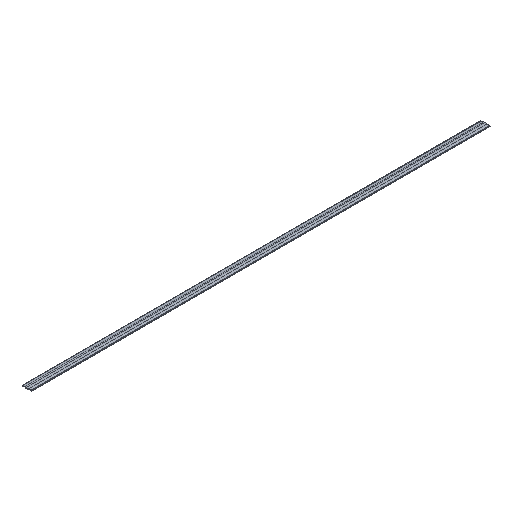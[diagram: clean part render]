
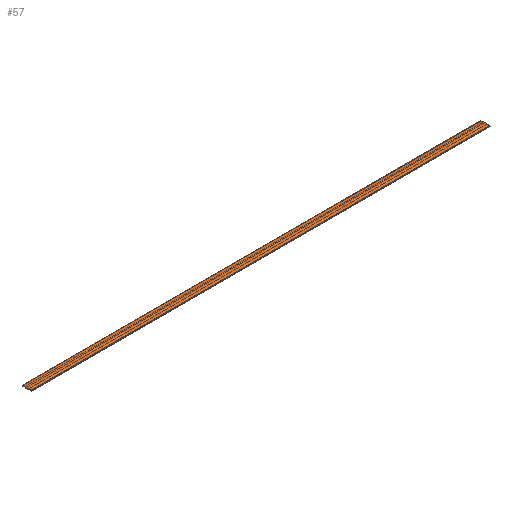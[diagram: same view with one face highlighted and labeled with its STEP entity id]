
A CAD part, isometric view. The second image highlights one B-rep face of the part: STEP entity #57.
In plain terms, the highlighted cylindrical face has radius 90 mm (diameter 180 mm), a partial arc.
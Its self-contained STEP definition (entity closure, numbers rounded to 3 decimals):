
#57 = ADVANCED_FACE( '', ( #131 ), #132, .T. );
#131 = FACE_OUTER_BOUND( '', #219, .T. );
#132 = CYLINDRICAL_SURFACE( '', #220, 90. );
#219 = EDGE_LOOP( '', ( #316, #317, #318, #319 ) );
#220 = AXIS2_PLACEMENT_3D( '', #320, #321, #322 );
#316 = ORIENTED_EDGE( '', *, *, #565, .F. );
#317 = ORIENTED_EDGE( '', *, *, #566, .F. );
#318 = ORIENTED_EDGE( '', *, *, #567, .T. );
#319 = ORIENTED_EDGE( '', *, *, #568, .T. );
#320 = CARTESIAN_POINT( '', ( 728.8, 0., -84.3 ) );
#321 = DIRECTION( '', ( 1., 0., 0. ) );
#322 = DIRECTION( '', ( 0., 0., 1. ) );
#565 = EDGE_CURVE( '', #679, #680, #681, .T. );
#566 = EDGE_CURVE( '', #682, #679, #683, .T. );
#567 = EDGE_CURVE( '', #682, #684, #685, .T. );
#568 = EDGE_CURVE( '', #684, #680, #686, .T. );
#679 = VERTEX_POINT( '', #843 );
#680 = VERTEX_POINT( '', #844 );
#681 = CIRCLE( '', #845, 90. );
#682 = VERTEX_POINT( '', #846 );
#683 = LINE( '', #847, #848 );
#684 = VERTEX_POINT( '', #849 );
#685 = CIRCLE( '', #850, 90. );
#686 = LINE( '', #851, #852 );
#843 = CARTESIAN_POINT( '', ( -728.8, -13.731, 4.646 ) );
#844 = CARTESIAN_POINT( '', ( -728.8, 13.731, 4.646 ) );
#845 = AXIS2_PLACEMENT_3D( '', #1024, #1025, #1026 );
#846 = CARTESIAN_POINT( '', ( 728.8, -13.731, 4.646 ) );
#847 = CARTESIAN_POINT( '', ( 728.8, -13.731, 4.646 ) );
#848 = VECTOR( '', #1027, 1000. );
#849 = CARTESIAN_POINT( '', ( 728.8, 13.731, 4.646 ) );
#850 = AXIS2_PLACEMENT_3D( '', #1028, #1029, #1030 );
#851 = CARTESIAN_POINT( '', ( 728.8, 13.731, 4.646 ) );
#852 = VECTOR( '', #1031, 1000. );
#1024 = CARTESIAN_POINT( '', ( -728.8, 0., -84.3 ) );
#1025 = DIRECTION( '', ( -1., 0., 0. ) );
#1026 = DIRECTION( '', ( 0., 1., 0. ) );
#1027 = DIRECTION( '', ( -1., 0., 0. ) );
#1028 = CARTESIAN_POINT( '', ( 728.8, 0., -84.3 ) );
#1029 = DIRECTION( '', ( -1., 0., 0. ) );
#1030 = DIRECTION( '', ( 0., 1., 0. ) );
#1031 = DIRECTION( '', ( -1., 0., 0. ) );
